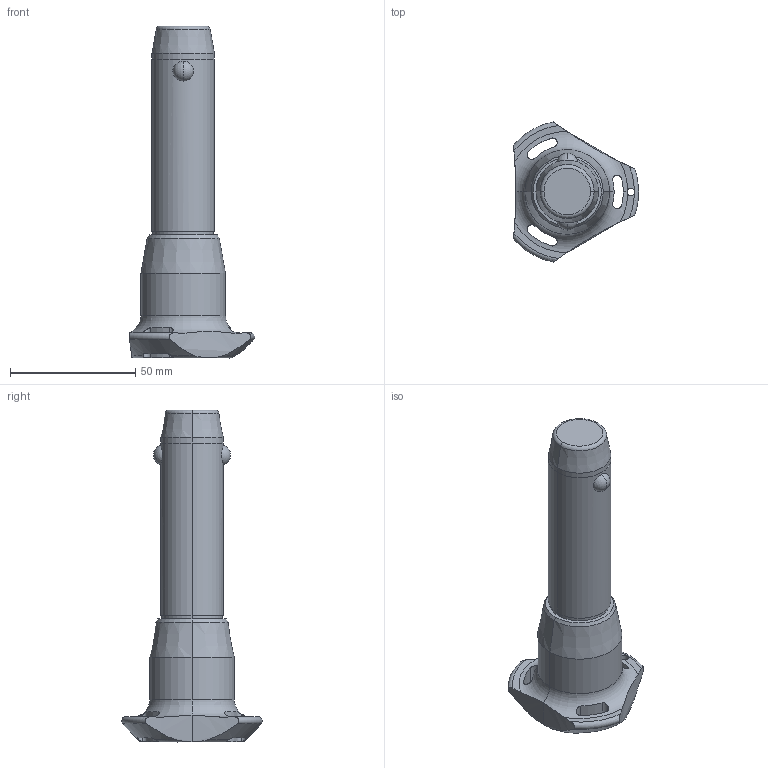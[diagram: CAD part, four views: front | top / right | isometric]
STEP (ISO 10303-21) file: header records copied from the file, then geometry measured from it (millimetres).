
FILE_DESCRIPTION (( 'STEP AP203' ), '1' );
FILE_NAME ('QR1726.M25-060-T.step', '2025-11-13T11:27:57', ( '' ), ( '' ), 'SwSTEP 2.0', 'SolidWorks 2019', '' );
FILE_SCHEMA (( 'CONFIG_CONTROL_DESIGN' ));
Length unit declared in the file: millimetre
Products named in the file (1): QR1726.M25-060-T
Bounding box: 50.04 x 56.02 x 132.7 mm (x, y, z)
Volume: 87904.2 mm3; surface area: 16162.2 mm2
Topology: 1 solids, 1 shells, 68 faces, 182 edges, 115 vertices
Faces by surface type: cylinder 32, cone 14, torus 11, sphere 6, plane 5
Entity records: 2938 total; most frequent: CARTESIAN_POINT 1192, ORIENTED_EDGE 364, DIRECTION 345, EDGE_CURVE 182, AXIS2_PLACEMENT_3D 154, VERTEX_POINT 115, CIRCLE 85, EDGE_LOOP 75
